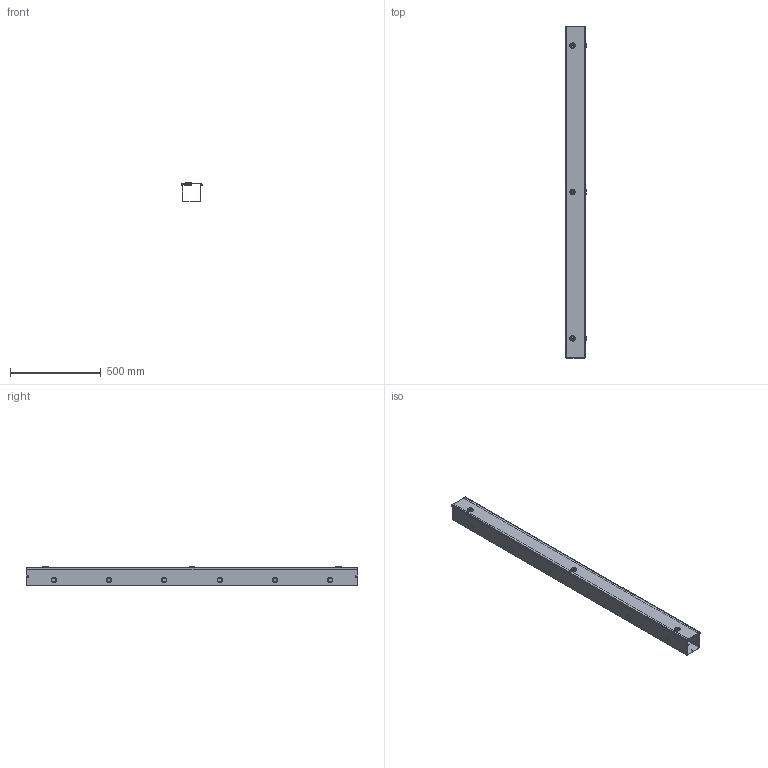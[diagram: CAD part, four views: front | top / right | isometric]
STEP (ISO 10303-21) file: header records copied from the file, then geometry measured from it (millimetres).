
FILE_DESCRIPTION(/* description */ ('1100SS 72" x 4" x 4" Assembly'),/* implementation_level */ '2;1');
FILE_NAME(/* name */ '1100SS4072.stp',/* time_stamp */ '2024-02-04T06:32:45-05:00',/* author */ ('BoxCad'),/* organization */ (''),/* preprocessor_version */ 'ST-DEVELOPER v20',/* originating_system */ 'Autodesk Inventor 2024',/* authorisation */ '');
FILE_SCHEMA (('AUTOMOTIVE_DESIGN { 1 0 10303 214 3 1 1 }'));
Products named in the file (12): 1100SS4072; 1100SS4072B; 1100SS4072B-P; 1100SS4072C; 1100SS4072C-P; STK-P-02400S; STK-Q-33361; STK-A-880SCQ1-SL-1; STK-A-880SCQ1-SL-2; STK-A-880SCQ1-SL-3; STK-Q-78631; STK-Q-78644
Assembly tree (18 placements, depth 4):
  1100SS4072
    1100SS4072B
      1100SS4072B-P
      STK-P-02400S
    1100SS4072C
      1100SS4072C-P
      STK-P-02400S
      STK-Q-33361  x3
      STK-A-880SCQ1-SL-1
        STK-Q-78631
        STK-Q-78644
      STK-A-880SCQ1-SL-2
        STK-Q-78631
        STK-Q-78644
      STK-A-880SCQ1-SL-3
        STK-Q-78631
        STK-Q-78644
Bounding box: 111.9 x 1828.8 x 107.6 mm (x, y, z)
Volume: 1175302.9 mm3; surface area: 1690269.1 mm2
Topology: 11 solids, 11 shells, 5116 faces, 13099 edges, 7921 vertices
Faces by surface type: plane 1945, cylinder 1377, bspline 1239, torus 318, sphere 237
Full cylindrical faces by diameter (mm): 0.762 x3, 7.137 x10, 30 x3
Entity records: 66158 total; most frequent: CARTESIAN_POINT 19315, ORIENTED_EDGE 10112, DIRECTION 8905, EDGE_CURVE 5056, VERTEX_POINT 3143, AXIS2_PLACEMENT_3D 3009, LINE 2887, VECTOR 2887
